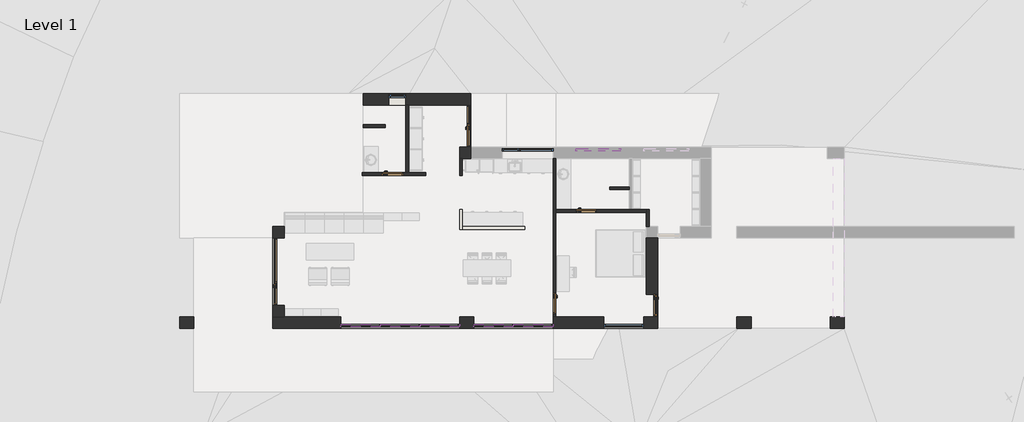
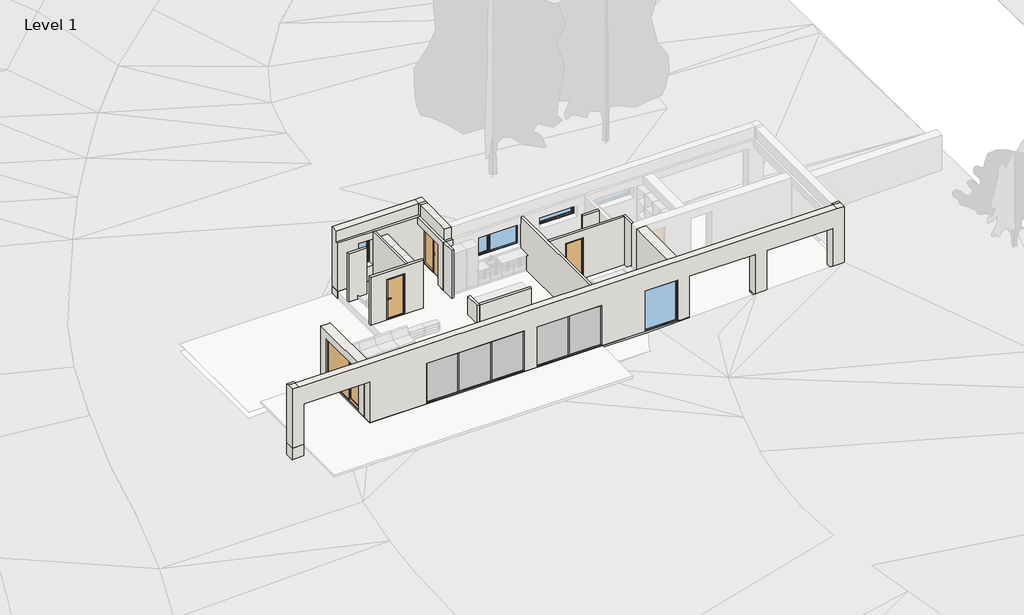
# One storey, part 1 of 3: 22 walls, 17 members, 6 doors, 5 plates, 4 windows.
"""IFC4 building model written with IfcOpenShell, lengths in millimetres."""

from ifc_helpers import new_model, si_unit, frame, origin, origin_with_axes, place, context, project, spatial, polyline, outline, extrude, faceted_brep, transform, mapped, element, save
from components import door_1800x2200_mm_7a9b0269, ext_door_window_assembly_glass_2880x2200_mm_8e24472b, ext_single_flush_out_glass_960x2200_mm_6190eac3, int_single_flush1_900x2200_mm_083ae047, rectangular_mullion_exterior_50x115mm_b31c03e9, rectangular_mullion_exterior_50x115mm_eaa21abb, rectangular_mullion_exterior_50x115mm_593a1a29, system_panel_exterior_glass_22mm_baca3ab9, system_panel_exterior_glass_22mm_266c4f93, fixed_1680x2200_mm_e3bfc0e5, single_light_top_hinged_1920x600_dd11e4f9, single_light_720x1400_mm_50d61ae6, window_assembly_individual_2160x1200_mm_ef5d95c3

model = new_model("IFC4")

# Units and contexts
model_context = context("Model", 3, world=origin())
ifc_project = project(units=[si_unit("LENGTHUNIT", "METRE", prefix="MILLI")], contexts=[model_context])

# Site, building, storey
site = spatial("IfcSite", under=ifc_project)
building = spatial("IfcBuilding", under=site)
storey = spatial("IfcBuildingStorey", under=building, Name="Level 1", Elevation=0.0)

# Doors
placement = place(None, origin())
door_1800x2200_mm_shape = door_1800x2200_mm_7a9b0269(model_context)
element("IfcDoor", 1, ObjectType="Ext. Door inw. Window Assembly : 1800x2200 mm", at=placement, inside=storey, context=model_context, shape_type="MappedRepresentation", body=[
    mapped(door_1800x2200_mm_shape, transform((12120.0, 8580.0, 0.0), x_axis=(0.0, -1.0, 0.0), y_axis=(1.0, 0.0, 0.0), z_axis=(0.0, 0.0, 1.0))),
])
ext_door_window_assembly_glass_2880x2200_mm_shape = ext_door_window_assembly_glass_2880x2200_mm_8e24472b(model_context)
element("IfcDoor", 2, ObjectType="Ext. Door Window Assembly - Glass : 2880x2200 mm", at=placement, inside=storey, context=model_context, shape_type="MappedRepresentation", body=[
    mapped(ext_door_window_assembly_glass_2880x2200_mm_shape, transform((4200.0, 2400.0, 0.0), x_axis=(0.0, -1.0, 0.0), y_axis=(1.0, 0.0, 0.0), z_axis=(0.0, 0.0, 1.0))),
])
ext_single_flush_out_glass_960x2200_mm_shape = ext_single_flush_out_glass_960x2200_mm_6190eac3(model_context)
element("IfcDoor", 3, ObjectType="Ext. Single-Flush out - Glass : 960x2200 mm", at=placement, inside=storey, context=model_context, shape_type="MappedRepresentation", body=[
    mapped(ext_single_flush_out_glass_960x2200_mm_shape, transform((20040.0, 960.0, 0.0), x_axis=(0.0, -1.0, 0.0), y_axis=(1.0, 0.0, 0.0), z_axis=(0.0, 0.0, 1.0))),
])
int_single_flush1_900x2200_mm_shape = int_single_flush1_900x2200_mm_083ae047(model_context)
element("IfcDoor", 4, ObjectType="Int. Single-Flush1 : 900x2200 mm", at=placement, inside=storey, context=model_context, shape_type="MappedRepresentation", body=[
    mapped(int_single_flush1_900x2200_mm_shape, transform((9030.0, 6540.0, 0.0), x_axis=(1.0, 0.0, 0.0), y_axis=(0.0, 1.0, 0.0), z_axis=(0.0, 0.0, 1.0))),
])
element("IfcDoor", 5, ObjectType="Int. Single-Flush1 : 900x2200 mm", at=placement, inside=storey, context=model_context, shape_type="MappedRepresentation", body=[
    mapped(int_single_flush1_900x2200_mm_shape, transform((17250.0, 4980.0, 0.0), x_axis=(1.0, 0.0, 0.0), y_axis=(0.0, 1.0, 0.0), z_axis=(0.0, 0.0, 1.0))),
])
element("IfcDoor", 6, ObjectType="Int. Single-Flush1 : 900x2200 mm", at=placement, inside=storey, context=model_context, shape_type="MappedRepresentation", body=[
    mapped(int_single_flush1_900x2200_mm_shape, transform((15900.0, 1050.0, 0.0), x_axis=(0.0, -1.0, 0.0), y_axis=(1.0, 0.0, 0.0), z_axis=(0.0, 0.0, 1.0))),
])

# Members
rectangular_mullion_exterior_50x115mm_shape = rectangular_mullion_exterior_50x115mm_b31c03e9(model_context)
element("IfcMember", 7, ObjectType="Rectangular Mullion : Exterior - 50x115mm", at=placement, inside=storey, context=model_context, shape_type="MappedRepresentation", body=[
    mapped(rectangular_mullion_exterior_50x115mm_shape, transform((6840.0, 50.0, 2200.0), x_axis=(0.0, 0.0, 1.0), y_axis=(0.0, 1.0, 0.0), z_axis=(-1.0, 0.0, 0.0))),
])
element("IfcMember", 8, ObjectType="Rectangular Mullion : Exterior - 50x115mm", at=placement, inside=storey, context=model_context, shape_type="MappedRepresentation", body=[
    mapped(rectangular_mullion_exterior_50x115mm_shape, transform((12480.0, 50.0, 2200.0), x_axis=(0.0, 0.0, 1.0), y_axis=(0.0, 1.0, 0.0), z_axis=(-1.0, 0.0, 0.0))),
])
element("IfcMember", 9, ObjectType="Rectangular Mullion : Exterior - 50x115mm", at=placement, inside=storey, context=model_context, shape_type="MappedRepresentation", body=[
    mapped(rectangular_mullion_exterior_50x115mm_shape, transform((11880.0, 50.0, 0.0), x_axis=(0.0, 0.0, -1.0), y_axis=(0.0, 1.0, 0.0), z_axis=(1.0, 0.0, 0.0))),
])
element("IfcMember", 10, ObjectType="Rectangular Mullion : Exterior - 50x115mm", at=placement, inside=storey, context=model_context, shape_type="MappedRepresentation", body=[
    mapped(rectangular_mullion_exterior_50x115mm_shape, transform((15840.0, 50.0, 0.0), x_axis=(0.0, 0.0, -1.0), y_axis=(0.0, 1.0, 0.0), z_axis=(1.0, 0.0, 0.0))),
])
rectangular_mullion_exterior_50x115mm_2_shape = rectangular_mullion_exterior_50x115mm_eaa21abb(model_context)
element("IfcMember", 11, ObjectType="Rectangular Mullion : Exterior - 50x115mm", at=placement, inside=storey, context=model_context, shape_type="MappedRepresentation", body=[
    mapped(rectangular_mullion_exterior_50x115mm_2_shape, transform((8520.0, 50.0, 50.0), x_axis=(-1.0, 0.0, 0.0), y_axis=(0.0, 1.0, 0.0), z_axis=(0.0, 0.0, -1.0))),
])
element("IfcMember", 12, ObjectType="Rectangular Mullion : Exterior - 50x115mm", at=placement, inside=storey, context=model_context, shape_type="MappedRepresentation", body=[
    mapped(rectangular_mullion_exterior_50x115mm_2_shape, transform((10200.0, 50.0, 50.0), x_axis=(-1.0, 0.0, 0.0), y_axis=(0.0, 1.0, 0.0), z_axis=(0.0, 0.0, -1.0))),
])
element("IfcMember", 13, ObjectType="Rectangular Mullion : Exterior - 50x115mm", at=placement, inside=storey, context=model_context, shape_type="MappedRepresentation", body=[
    mapped(rectangular_mullion_exterior_50x115mm_2_shape, transform((14160.0, 50.0, 50.0), x_axis=(-1.0, 0.0, 0.0), y_axis=(0.0, 1.0, 0.0), z_axis=(0.0, 0.0, -1.0))),
])
element("IfcMember", 14, ObjectType="Rectangular Mullion : Exterior - 50x115mm", at=placement, inside=storey, context=model_context, shape_type="MappedRepresentation", body=[
    mapped(rectangular_mullion_exterior_50x115mm_shape, transform((8520.0, 50.0, 0.0), x_axis=(0.0, 0.0, -1.0), y_axis=(0.0, 1.0, 0.0), z_axis=(1.0, 0.0, 0.0))),
])
element("IfcMember", 15, ObjectType="Rectangular Mullion : Exterior - 50x115mm", at=placement, inside=storey, context=model_context, shape_type="MappedRepresentation", body=[
    mapped(rectangular_mullion_exterior_50x115mm_shape, transform((14160.0, 50.0, 0.0), x_axis=(0.0, 0.0, -1.0), y_axis=(0.0, 1.0, 0.0), z_axis=(1.0, 0.0, 0.0))),
])
element("IfcMember", 16, ObjectType="Rectangular Mullion : Exterior - 50x115mm", at=placement, inside=storey, context=model_context, shape_type="MappedRepresentation", body=[
    mapped(rectangular_mullion_exterior_50x115mm_shape, transform((10200.0, 50.0, 0.0), x_axis=(0.0, 0.0, -1.0), y_axis=(0.0, 1.0, 0.0), z_axis=(1.0, 0.0, 0.0))),
])
element("IfcMember", 17, ObjectType="Rectangular Mullion : Exterior - 50x115mm", at=placement, inside=storey, context=model_context, shape_type="MappedRepresentation", body=[
    mapped(rectangular_mullion_exterior_50x115mm_shape, transform((8520.0, 50.0, 2200.0), x_axis=(0.0, 0.0, 1.0), y_axis=(0.0, 1.0, 0.0), z_axis=(-1.0, 0.0, 0.0))),
])
element("IfcMember", 18, ObjectType="Rectangular Mullion : Exterior - 50x115mm", at=placement, inside=storey, context=model_context, shape_type="MappedRepresentation", body=[
    mapped(rectangular_mullion_exterior_50x115mm_shape, transform((10200.0, 50.0, 2200.0), x_axis=(0.0, 0.0, 1.0), y_axis=(0.0, 1.0, 0.0), z_axis=(-1.0, 0.0, 0.0))),
])
element("IfcMember", 19, ObjectType="Rectangular Mullion : Exterior - 50x115mm", at=placement, inside=storey, context=model_context, shape_type="MappedRepresentation", body=[
    mapped(rectangular_mullion_exterior_50x115mm_shape, transform((14160.0, 50.0, 2200.0), x_axis=(0.0, 0.0, 1.0), y_axis=(0.0, 1.0, 0.0), z_axis=(-1.0, 0.0, 0.0))),
])
rectangular_mullion_exterior_50x115mm_3_shape = rectangular_mullion_exterior_50x115mm_593a1a29(model_context)
element("IfcMember", 20, ObjectType="Rectangular Mullion : Exterior - 50x115mm", at=placement, inside=storey, context=model_context, shape_type="MappedRepresentation", body=[
    mapped(rectangular_mullion_exterior_50x115mm_3_shape, transform((11880.0, 50.0, 2150.0), x_axis=(1.0, 0.0, 0.0), y_axis=(0.0, 1.0, 0.0), z_axis=(0.0, 0.0, 1.0))),
])
element("IfcMember", 21, ObjectType="Rectangular Mullion : Exterior - 50x115mm", at=placement, inside=storey, context=model_context, shape_type="MappedRepresentation", body=[
    mapped(rectangular_mullion_exterior_50x115mm_3_shape, transform((15840.0, 50.0, 2150.0), x_axis=(1.0, 0.0, 0.0), y_axis=(0.0, 1.0, 0.0), z_axis=(0.0, 0.0, 1.0))),
])
element("IfcMember", 22, ObjectType="Rectangular Mullion : Exterior - 50x115mm", at=placement, inside=storey, context=model_context, shape_type="MappedRepresentation", body=[
    mapped(rectangular_mullion_exterior_50x115mm_3_shape, transform((6840.0, 50.0, 50.0), x_axis=(-1.0, 0.0, 0.0), y_axis=(0.0, 1.0, 0.0), z_axis=(0.0, 0.0, -1.0))),
])
element("IfcMember", 23, ObjectType="Rectangular Mullion : Exterior - 50x115mm", at=placement, inside=storey, context=model_context, shape_type="MappedRepresentation", body=[
    mapped(rectangular_mullion_exterior_50x115mm_3_shape, transform((12480.0, 50.0, 50.0), x_axis=(-1.0, 0.0, 0.0), y_axis=(0.0, 1.0, 0.0), z_axis=(0.0, 0.0, -1.0))),
])

# Plates
system_panel_exterior_glass_22mm_shape = system_panel_exterior_glass_22mm_baca3ab9(model_context)
element("IfcPlate", 24, ObjectType="System Panel : Exterior - Glass 22mm", at=placement, inside=storey, context=model_context, shape_type="MappedRepresentation", body=[
    mapped(system_panel_exterior_glass_22mm_shape, transform((11027.5, 50.0, 50.0), x_axis=(-1.0, 0.0, 0.0), y_axis=(0.0, -1.0, 0.0), z_axis=(0.0, 0.0, 1.0))),
])
element("IfcPlate", 25, ObjectType="System Panel : Exterior - Glass 22mm", at=placement, inside=storey, context=model_context, shape_type="MappedRepresentation", body=[
    mapped(system_panel_exterior_glass_22mm_shape, transform((7692.5, 50.0, 50.0), x_axis=(-1.0, 0.0, 0.0), y_axis=(0.0, -1.0, 0.0), z_axis=(0.0, 0.0, 1.0))),
])
element("IfcPlate", 26, ObjectType="System Panel : Exterior - Glass 22mm", at=placement, inside=storey, context=model_context, shape_type="MappedRepresentation", body=[
    mapped(system_panel_exterior_glass_22mm_shape, transform((14987.5, 50.0, 50.0), x_axis=(-1.0, 0.0, 0.0), y_axis=(0.0, -1.0, 0.0), z_axis=(0.0, 0.0, 1.0))),
])
element("IfcPlate", 27, ObjectType="System Panel : Exterior - Glass 22mm", at=placement, inside=storey, context=model_context, shape_type="MappedRepresentation", body=[
    mapped(system_panel_exterior_glass_22mm_shape, transform((13332.5, 50.0, 50.0), x_axis=(-1.0, 0.0, 0.0), y_axis=(0.0, -1.0, 0.0), z_axis=(0.0, 0.0, 1.0))),
])
system_panel_exterior_glass_22mm_2_shape = system_panel_exterior_glass_22mm_266c4f93(model_context)
element("IfcPlate", 28, ObjectType="System Panel : Exterior - Glass 22mm", at=placement, inside=storey, context=model_context, shape_type="MappedRepresentation", body=[
    mapped(system_panel_exterior_glass_22mm_2_shape, transform((9360.0, 50.0, 50.0), x_axis=(-1.0, 0.0, 0.0), y_axis=(0.0, -1.0, 0.0), z_axis=(0.0, 0.0, 1.0))),
])

# Walls
element("IfcWall", 29, ObjectType="Generic - 120mm (Interior)", at=placement, inside=storey, context=model_context, shape_type="Brep", body=[
    faceted_brep([(9720.0, 6600.0, 0.0), (9720.0, 9480.0, 0.0), (9720.0, 9480.0, 2600.0), (9720.0, 6600.0, 2600.0), (9600.0, 6600.0, 0.0), (9600.0, 6600.0, 2600.0), (9600.0, 9480.0, 2600.0), (9600.0, 9480.0, 2200.0), (9600.0, 9480.0, 800.0), (9600.0, 9480.0, 0.0)], [[[0, 1, 2, 3]], [[4, 5, 6, 7, 8, 9]], [[1, 0, 4, 9]], [[0, 3, 5, 4]], [[2, 1, 9, 8, 7, 6]], [[3, 2, 6, 5]]]),
])
element("IfcWall", 30, ObjectType="Generic - 120mm (Interior)", at=placement, inside=storey, context=model_context, shape_type="Brep", body=[
    faceted_brep([(15960.0, 7200.0, 0.0), (15960.0, 7200.0, 2600.0), (15960.0, 5040.0, 2600.0), (15960.0, 4920.0, 2600.0), (15960.0, 480.0, 2600.0), (15960.0, 480.0, 0.0), (15960.0, 600.0, 0.0), (15960.0, 600.0, 2200.0), (15960.0, 1500.0, 2200.0), (15960.0, 1500.0, 0.0), (15960.0, 4920.0, 0.0), (15960.0, 5040.0, 0.0), (15840.0, 7200.0, 2600.0), (15840.0, 7200.0, 2200.0), (15840.0, 7200.0, 1000.0), (15840.0, 7200.0, 0.0), (15840.0, 1500.0, 0.0), (15840.0, 1500.0, 2200.0), (15840.0, 600.0, 2200.0), (15840.0, 600.0, 0.0), (15840.0, 480.0, 0.0), (15840.0, 480.0, 2200.0), (15840.0, 480.0, 2600.0)], [[[0, 1, 2, 3, 4, 5, 6, 7, 8, 9, 10, 11]], [[12, 13, 14, 15, 16, 17, 18, 19, 20, 21, 22]], [[5, 20, 19, 6]], [[15, 0, 11, 10, 9, 16]], [[1, 0, 15, 14, 13, 12]], [[5, 4, 22, 21, 20]], [[18, 7, 6, 19]], [[7, 18, 17, 8]], [[8, 17, 16, 9]], [[4, 3, 2, 1, 12, 22]]]),
])
element("IfcWall", 31, ObjectType="Generic - 120mm (Interior)", at=placement, inside=storey, context=model_context, shape_type="Brep", body=[
    faceted_brep([(19920.0, 4320.0, 0.0), (19920.0, 5040.0, 0.0), (19920.0, 5040.0, 2600.0), (19920.0, 4320.0, 2600.0), (19800.0, 4320.0, 0.0), (19800.0, 4320.0, 2600.0), (19800.0, 4920.0, 2600.0), (19800.0, 5040.0, 2600.0), (19800.0, 5040.0, 0.0), (19800.0, 4920.0, 0.0)], [[[0, 1, 2, 3]], [[4, 5, 6, 7, 8, 9]], [[1, 0, 4, 9, 8]], [[2, 1, 8, 7]], [[0, 3, 5, 4]], [[3, 2, 7, 6, 5]]]),
])
element("IfcWall", 32, ObjectType="Generic - 120mm (Interior)", at=placement, inside=storey, context=model_context, shape_type="Brep", body=[
    faceted_brep([(19800.0, 5040.0, 2600.0), (19800.0, 5040.0, 0.0), (19200.0, 5040.0, 0.0), (19080.0, 5040.0, 0.0), (17700.0, 5040.0, 0.0), (17700.0, 5040.0, 2200.0), (16800.0, 5040.0, 2200.0), (16800.0, 5040.0, 0.0), (15960.0, 5040.0, 0.0), (15960.0, 5040.0, 2600.0), (19080.0, 5040.0, 2600.0), (19200.0, 5040.0, 2600.0), (19800.0, 4920.0, 0.0), (19800.0, 4920.0, 2600.0), (15960.0, 4920.0, 2600.0), (15960.0, 4920.0, 0.0), (16800.0, 4920.0, 0.0), (16800.0, 4920.0, 2200.0), (17700.0, 4920.0, 2200.0), (17700.0, 4920.0, 0.0)], [[[0, 1, 2, 3, 4, 5, 6, 7, 8, 9, 10, 11]], [[12, 13, 14, 15, 16, 17, 18, 19]], [[1, 12, 19, 4, 3, 2]], [[15, 8, 7, 16]], [[1, 0, 13, 12]], [[9, 8, 15, 14]], [[18, 5, 4, 19]], [[5, 18, 17, 6]], [[6, 17, 16, 7]], [[0, 11, 10, 9, 14, 13]]]),
])
element("IfcWall", 33, ObjectType="Generic - 120mm (Interior)", at=placement, inside=storey, context=model_context, shape_type="SweptSolid", body=[
    extrude(outline(polyline([(18240.0, 6000.0), (19080.0, 6000.0), (19080.0, 5880.0), (18240.0, 5880.0), (18240.0, 6000.0)])), origin_with_axes(), (0.0, 0.0, 1.0), 2600.0),
])
element("IfcWall", 34, ObjectType="Generic - 120mm (Interior)", at=placement, inside=storey, context=model_context, shape_type="SweptSolid", body=[
    extrude(outline(polyline([(8720.0, 8520.0), (7800.0, 8520.0), (7800.0, 8640.0), (8720.0, 8640.0), (8720.0, 8520.0)])), origin_with_axes(), (0.0, 0.0, 1.0), 2600.0),
])
element("IfcWall", 35, ObjectType="Generic - 120mm (Interior)", at=placement, inside=storey, context=model_context, shape_type="Brep", body=[
    faceted_brep([(11880.0, 5040.0, 0.0), (11880.0, 4200.0, 0.0), (11880.0, 4200.0, 1000.0), (11880.0, 5040.0, 1000.0), (12000.0, 5040.0, 0.0), (12000.0, 5040.0, 1000.0), (12000.0, 4320.0, 1000.0), (12000.0, 4200.0, 1000.0), (12000.0, 4200.0, 0.0), (12000.0, 4320.0, 0.0)], [[[0, 1, 2, 3]], [[4, 5, 6, 7, 8, 9]], [[1, 0, 4, 9, 8]], [[3, 2, 7, 6, 5]], [[0, 3, 5, 4]], [[2, 1, 8, 7]]]),
])
element("IfcWall", 36, ObjectType="Generic - 120mm (Interior)", at=placement, inside=storey, context=model_context, shape_type="SweptSolid", body=[
    extrude(outline(polyline([(14640.0, 4200.0), (12000.0, 4200.0), (12000.0, 4320.0), (14640.0, 4320.0), (14640.0, 4200.0)])), origin_with_axes(), (0.0, 0.0, 1.0), 1000.0),
])
element("IfcWall", 37, ObjectType="Generic - 120mm (Interior)", at=placement, inside=storey, context=model_context, shape_type="SweptSolid", body=[
    extrude(outline(polyline([(11880.0, 6480.0), (11880.0, 7200.0), (12000.0, 7200.0), (12000.0, 6480.0), (11880.0, 6480.0)])), origin_with_axes(), (0.0, 0.0, 1.0), 2600.0),
])
element("IfcWall", 38, ObjectType="Generic - 120mm (Interior)", at=placement, inside=storey, context=model_context, shape_type="Brep", body=[
    faceted_brep([(10440.0, 6480.0, 0.0), (10440.0, 6480.0, 2600.0), (7740.0, 6480.0, 2600.0), (7740.0, 6480.0, 0.0), (7800.0, 6480.0, 0.0), (8580.0, 6480.0, 0.0), (8580.0, 6480.0, 2200.0), (9480.0, 6480.0, 2200.0), (9480.0, 6480.0, 0.0), (10440.0, 6600.0, 2600.0), (10440.0, 6600.0, 0.0), (9720.0, 6600.0, 0.0), (9600.0, 6600.0, 0.0), (9480.0, 6600.0, 0.0), (9480.0, 6600.0, 2200.0), (8580.0, 6600.0, 2200.0), (8580.0, 6600.0, 0.0), (7800.0, 6600.0, 0.0), (7740.0, 6600.0, 0.0), (7740.0, 6600.0, 2600.0), (7800.0, 6600.0, 2600.0), (9600.0, 6600.0, 2600.0), (9720.0, 6600.0, 2600.0)], [[[0, 1, 2, 3, 4, 5, 6, 7, 8]], [[9, 10, 11, 12, 13, 14, 15, 16, 17, 18, 19, 20, 21, 22]], [[10, 0, 8, 13, 12, 11]], [[3, 18, 17, 16, 5, 4]], [[1, 0, 10, 9]], [[3, 2, 19, 18]], [[2, 1, 9, 22, 21, 20, 19]], [[7, 14, 13, 8]], [[14, 7, 6, 15]], [[15, 6, 5, 16]]]),
])
element("IfcWall", 39, ObjectType="Generic - 480mm (Exterior)", at=placement, inside=storey, context=model_context, shape_type="Brep", body=[
    faceted_brep([(11880.0, 7200.0, 0.0), (11880.0, 7200.0, 2600.0), (11880.0, 9480.0, 2600.0), (11880.0, 9480.0, 2200.0), (11880.0, 7680.0, 2200.0), (11880.0, 7680.0, 0.0), (12360.0, 7200.0, 2600.0), (12360.0, 7200.0, 0.0), (12360.0, 7680.0, 0.0), (12360.0, 7680.0, 2200.0), (12360.0, 9480.0, 2200.0), (12360.0, 9480.0, 3200.0), (12360.0, 7680.0, 3200.0), (12360.0, 7320.0, 3200.0), (12360.0, 7320.0, 2600.0), (12000.0, 9480.0, 3200.0), (12000.0, 9480.0, 2600.0), (12000.0, 7200.0, 2600.0), (12000.0, 7320.0, 2600.0), (12000.0, 7320.0, 3200.0)], [[[0, 1, 2, 3, 4, 5]], [[6, 7, 8, 9, 10, 11, 12, 13, 14]], [[7, 0, 5, 8]], [[15, 11, 10, 3, 2, 16]], [[4, 9, 8, 5]], [[9, 4, 3, 10]], [[1, 0, 7, 6, 17]], [[15, 16, 18, 19]], [[11, 15, 19, 13, 12]], [[13, 19, 18, 14]], [[16, 2, 1, 17, 6, 14, 18]]]),
])
element("IfcWall", 40, ObjectType="Generic - 480mm (Exterior)", at=placement, inside=storey, context=model_context, shape_type="Brep", body=[
    faceted_brep([(28200.0, 480.0, 0.0), (27600.0, 480.0, 0.0), (27600.0, 480.0, 2200.0), (24240.0, 480.0, 2200.0), (24240.0, 480.0, 0.0), (23640.0, 480.0, 0.0), (23640.0, 480.0, 2200.0), (20280.0, 480.0, 2200.0), (20280.0, 480.0, 0.0), (19680.0, 480.0, 0.0), (19680.0, 480.0, 2200.0), (18000.0, 480.0, 2200.0), (18000.0, 480.0, 0.0), (15960.0, 480.0, 0.0), (15840.0, 480.0, 0.0), (15840.0, 480.0, 2200.0), (12480.0, 480.0, 2200.0), (12480.0, 480.0, 0.0), (11880.0, 480.0, 0.0), (11880.0, 480.0, 2200.0), (6840.0, 480.0, 2200.0), (6840.0, 480.0, 0.0), (4440.0, 480.0, 0.0), (3960.0, 480.0, 0.0), (3960.0, 480.0, 2200.0), (600.0, 480.0, 2200.0), (600.0, 480.0, 0.0), (0.0, 480.0, 0.0), (0.0, 480.0, 2200.0), (0.0, 480.0, 3200.0), (360.0, 480.0, 3200.0), (360.0, 480.0, 2600.0), (480.0, 480.0, 2600.0), (3960.0, 480.0, 2600.0), (4440.0, 480.0, 2600.0), (15840.0, 480.0, 2600.0), (15960.0, 480.0, 2600.0), (19800.0, 480.0, 2600.0), (20280.0, 480.0, 2600.0), (27720.0, 480.0, 2600.0), (27840.0, 480.0, 2600.0), (27840.0, 480.0, 3200.0), (28200.0, 480.0, 3200.0), (28200.0, 480.0, 2200.0), (27600.0, 0.0, 0.0), (28200.0, 0.0, 0.0), (28200.0, 0.0, 3200.0), (27840.0, 0.0, 3200.0), (360.0, 0.0, 3200.0), (0.0, 0.0, 3200.0), (0.0, 0.0, 0.0), (600.0, 0.0, 0.0), (600.0, 0.0, 2200.0), (3960.0, 0.0, 2200.0), (3960.0, 0.0, 0.0), (6840.0, 0.0, 0.0), (6840.0, 0.0, 2200.0), (11880.0, 0.0, 2200.0), (11880.0, 0.0, 0.0), (12480.0, 0.0, 0.0), (12480.0, 0.0, 2200.0), (15840.0, 0.0, 2200.0), (15840.0, 0.0, 0.0), (18000.0, 0.0, 0.0), (18000.0, 0.0, 2200.0), (19680.0, 0.0, 2200.0), (19680.0, 0.0, 0.0), (20280.0, 0.0, 0.0), (20280.0, 0.0, 2200.0), (23640.0, 0.0, 2200.0), (23640.0, 0.0, 0.0), (24240.0, 0.0, 0.0), (24240.0, 0.0, 2200.0), (27600.0, 0.0, 2200.0), (28200.0, 360.0, 3200.0), (0.0, 360.0, 3200.0), (27840.0, 360.0, 2600.0), (27840.0, 360.0, 3200.0), (360.0, 360.0, 2600.0), (360.0, 360.0, 3200.0)], [[[0, 1, 2, 3, 4, 5, 6, 7, 8, 9, 10, 11, 12, 13, 14, 15, 16, 17, 18, 19, 20, 21, 22, 23, 24, 25, 26, 27, 28, 29, 30, 31, 32, 33, 34, 35, 36, 37, 38, 39, 40, 41, 42, 43]], [[44, 45, 46, 47, 48, 49, 50, 51, 52, 53, 54, 55, 56, 57, 58, 59, 60, 61, 62, 63, 64, 65, 66, 67, 68, 69, 70, 71, 72, 73]], [[65, 10, 9, 66]], [[10, 65, 64, 11]], [[11, 64, 63, 12]], [[57, 19, 18, 58]], [[19, 57, 56, 20]], [[20, 56, 55, 21]], [[61, 15, 14, 62]], [[15, 61, 60, 16]], [[16, 60, 59, 17]], [[1, 0, 45, 44]], [[2, 1, 44, 73]], [[3, 2, 73, 72]], [[4, 3, 72, 71]], [[5, 4, 71, 70]], [[6, 5, 70, 69]], [[7, 6, 69, 68]], [[9, 8, 67, 66]], [[12, 63, 62, 14, 13]], [[58, 18, 17, 59]], [[23, 22, 21, 55, 54]], [[25, 24, 53, 52]], [[26, 25, 52, 51]], [[27, 26, 51, 50]], [[24, 23, 54, 53]], [[8, 7, 68, 67]], [[0, 43, 42, 74, 46, 45]], [[29, 28, 27, 50, 49, 75]], [[41, 40, 76, 77]], [[77, 76, 78, 79]], [[42, 41, 77, 74]], [[47, 46, 74, 77]], [[29, 75, 79, 30]], [[30, 79, 78, 31]], [[77, 79, 48, 47]], [[75, 49, 48, 79]], [[76, 40, 39, 38, 37, 36, 35, 34, 33, 32, 31, 78]]]),
])
element("IfcWall", 41, ObjectType="Generic - 480mm (Exterior)", at=placement, inside=storey, context=model_context, shape_type="Brep", body=[
    faceted_brep([(4440.0, 4320.0, 0.0), (4440.0, 4320.0, 2600.0), (4440.0, 480.0, 2600.0), (4440.0, 480.0, 0.0), (4440.0, 960.0, 0.0), (4440.0, 960.0, 2200.0), (4440.0, 3840.0, 2200.0), (4440.0, 3840.0, 0.0), (3960.0, 4320.0, 2600.0), (3960.0, 4320.0, 0.0), (3960.0, 3840.0, 0.0), (3960.0, 3840.0, 2200.0), (3960.0, 960.0, 2200.0), (3960.0, 960.0, 0.0), (3960.0, 480.0, 0.0), (3960.0, 480.0, 2200.0), (3960.0, 480.0, 2600.0), (3960.0, 3840.0, 2600.0), (4320.0, 4320.0, 2600.0)], [[[0, 1, 2, 3, 4, 5, 6, 7]], [[8, 9, 10, 11, 12, 13, 14, 15, 16, 17]], [[9, 0, 7, 10]], [[3, 14, 13, 4]], [[1, 0, 9, 8, 18]], [[12, 5, 4, 13]], [[5, 12, 11, 6]], [[6, 11, 10, 7]], [[14, 3, 2, 16, 15]], [[16, 2, 1, 18, 8, 17]]]),
])
element("IfcWall", 42, ObjectType="Generic - 480mm (Exterior)", at=placement, inside=storey, context=model_context, shape_type="Brep", body=[
    faceted_brep([(19800.0, 3840.0, 2600.0), (19800.0, 3840.0, 0.0), (19800.0, 1440.0, 0.0), (19800.0, 1440.0, 2200.0), (19800.0, 480.0, 2200.0), (19800.0, 480.0, 2600.0), (20280.0, 3840.0, 0.0), (20280.0, 3840.0, 2200.0), (20280.0, 3840.0, 2600.0), (20280.0, 480.0, 2600.0), (20280.0, 480.0, 2200.0), (20280.0, 1440.0, 2200.0), (20280.0, 1440.0, 0.0)], [[[0, 1, 2, 3, 4, 5]], [[6, 7, 8, 9, 10, 11, 12]], [[1, 6, 12, 2]], [[1, 0, 8, 7, 6]], [[3, 11, 10, 4]], [[11, 3, 2, 12]], [[9, 5, 4, 10]], [[0, 5, 9, 8]]]),
])
element("IfcWall", 43, ObjectType="Generic - 480mm (Exterior)", at=placement, inside=storey, context=model_context, shape_type="Brep", body=[
    faceted_brep([(7800.0, 9480.0, 0.0), (9600.0, 9480.0, 0.0), (9720.0, 9480.0, 0.0), (12360.0, 9480.0, 0.0), (12360.0, 9480.0, 2200.0), (12360.0, 9480.0, 3200.0), (12000.0, 9480.0, 3200.0), (12000.0, 9480.0, 2600.0), (11880.0, 9480.0, 2600.0), (9720.0, 9480.0, 2600.0), (9600.0, 9480.0, 2600.0), (7800.0, 9480.0, 2600.0), (8880.0, 9480.0, 800.0), (8880.0, 9480.0, 2200.0), (9600.0, 9480.0, 2200.0), (9600.0, 9480.0, 800.0), (7800.0, 9960.0, 0.0), (7800.0, 9960.0, 3200.0), (12000.0, 9960.0, 3200.0), (12360.0, 9960.0, 3200.0), (12360.0, 9960.0, 0.0), (8880.0, 9960.0, 800.0), (9600.0, 9960.0, 800.0), (9600.0, 9960.0, 2200.0), (8880.0, 9960.0, 2200.0), (7800.0, 9600.0, 2600.0), (7800.0, 9600.0, 3200.0), (12360.0, 9600.0, 3200.0), (12000.0, 9600.0, 3200.0), (12000.0, 9600.0, 2600.0)], [[[0, 1, 2, 3, 4, 5, 6, 7, 8, 9, 10, 11], [12, 13, 14, 15]], [[16, 17, 18, 19, 20], [21, 22, 23, 24]], [[3, 2, 1, 0, 16, 20]], [[0, 11, 25, 26, 17, 16]], [[5, 4, 3, 20, 19, 27]], [[28, 26, 25, 29]], [[6, 5, 27, 28]], [[6, 28, 29, 7]], [[18, 17, 26, 28]], [[27, 19, 18, 28]], [[11, 10, 9, 8, 7, 29, 25]], [[12, 15, 22, 21]], [[15, 14, 23, 22]], [[14, 13, 24, 23]], [[13, 12, 21, 24]]]),
])
element("IfcWall", 44, ObjectType="Generic - 480mm (Foundation)", at=placement, inside=storey, context=model_context, shape_type="Brep", body=[
    faceted_brep([(7800.0, 9480.0, 0.0), (7800.0, 9480.0, -600.0), (7800.0, 9480.0, -1300.0), (11880.0, 9480.0, -1300.0), (12360.0, 9480.0, -1300.0), (12360.0, 9480.0, 0.0), (11880.0, 9480.0, 0.0), (7800.0, 9960.0, -1300.0), (7800.0, 9960.0, -600.0), (7800.0, 9960.0, 0.0), (12360.0, 9960.0, 0.0), (12360.0, 9960.0, -1300.0)], [[[0, 1, 2, 3, 4, 5, 6]], [[7, 8, 9, 10, 11]], [[4, 3, 2, 7, 11]], [[0, 6, 5, 10, 9]], [[5, 4, 11, 10]], [[0, 9, 8, 7, 2, 1]]]),
])
element("IfcWall", 45, ObjectType="Generic - 480mm (Foundation)", at=placement, inside=storey, context=model_context, shape_type="Brep", body=[
    faceted_brep([(11880.0, 9480.0, -1300.0), (11880.0, 7200.0, -1300.0), (11880.0, 7200.0, -400.0), (11880.0, 7200.0, 0.0), (11880.0, 7680.0, 0.0), (11880.0, 7680.0, -400.0), (11880.0, 9480.0, -400.0), (12360.0, 7200.0, -1300.0), (12360.0, 7680.0, -1300.0), (12360.0, 9480.0, -1300.0), (12360.0, 9480.0, 0.0), (12360.0, 7680.0, 0.0), (12360.0, 7200.0, 0.0), (12360.0, 7200.0, -400.0), (12195.0, 9480.0, 0.0), (12195.0, 7680.0, 0.0), (12195.0, 9480.0, -400.0), (12195.0, 7680.0, -400.0)], [[[0, 1, 2, 3, 4, 5, 6]], [[7, 8, 9, 10, 11, 12, 13]], [[1, 0, 9, 8, 7]], [[12, 11, 10, 14, 15, 4, 3]], [[10, 9, 0, 6, 16, 14]], [[1, 7, 13, 12, 3, 2]], [[17, 16, 6, 5]], [[16, 17, 15, 14]], [[17, 5, 4, 15]]]),
])
element("IfcWall", 46, ObjectType="Generic - 480mm (Foundation)", at=placement, inside=storey, context=model_context, shape_type="Brep", body=[
    faceted_brep([(19800.0, 3840.0, -1300.0), (19800.0, 480.0, -1300.0), (19800.0, 0.0, -1300.0), (19800.0, 0.0, 0.0), (19800.0, 480.0, 0.0), (19800.0, 480.0, -400.0), (19800.0, 1440.0, -400.0), (19800.0, 1440.0, 0.0), (19800.0, 3840.0, 0.0), (19800.0, 3840.0, -400.0), (20280.0, 0.0, -1300.0), (20280.0, 3840.0, -1300.0), (20280.0, 3840.0, 0.0), (20280.0, 0.0, 0.0), (20115.0, 1440.0, 0.0), (20115.0, 480.0, 0.0), (20115.0, 1440.0, -400.0), (20115.0, 480.0, -400.0)], [[[0, 1, 2, 3, 4, 5, 6, 7, 8, 9]], [[10, 11, 12, 13]], [[2, 1, 0, 11, 10]], [[13, 12, 8, 7, 14, 15, 4, 3]], [[8, 12, 11, 0, 9]], [[3, 2, 10, 13]], [[16, 6, 5, 17]], [[6, 16, 14, 7]], [[16, 17, 15, 14]], [[15, 17, 5, 4]]]),
])
element("IfcWall", 47, ObjectType="Generic - 480mm (Foundation)", at=placement, inside=storey, context=model_context, shape_type="Brep", body=[
    faceted_brep([(19800.0, 480.0, -1300.0), (4440.0, 480.0, -1300.0), (3960.0, 480.0, -1300.0), (3960.0, 480.0, 0.0), (4440.0, 480.0, 0.0), (6840.0, 480.0, 0.0), (6840.0, 480.0, -400.0), (11880.0, 480.0, -400.0), (11880.0, 480.0, 0.0), (12480.0, 480.0, 0.0), (12480.0, 480.0, -400.0), (15840.0, 480.0, -400.0), (15840.0, 480.0, 0.0), (18000.0, 480.0, 0.0), (18000.0, 480.0, -400.0), (19680.0, 480.0, -400.0), (19680.0, 480.0, 0.0), (19800.0, 480.0, 0.0), (19800.0, 480.0, -400.0), (3960.0, 0.0, -1300.0), (19800.0, 0.0, -1300.0), (19800.0, 0.0, 0.0), (3960.0, 0.0, 0.0), (19680.0, 165.0, 0.0), (18000.0, 165.0, 0.0), (15840.0, 165.0, 0.0), (12480.0, 165.0, 0.0), (11880.0, 165.0, 0.0), (6840.0, 165.0, 0.0), (19680.0, 165.0, -400.0), (18000.0, 165.0, -400.0), (15840.0, 165.0, -400.0), (12480.0, 165.0, -400.0), (11880.0, 165.0, -400.0), (6840.0, 165.0, -400.0)], [[[0, 1, 2, 3, 4, 5, 6, 7, 8, 9, 10, 11, 12, 13, 14, 15, 16, 17, 18]], [[19, 20, 21, 22]], [[2, 1, 0, 20, 19]], [[22, 21, 17, 16, 23, 24, 13, 12, 25, 26, 9, 8, 27, 28, 5, 4, 3]], [[17, 21, 20, 0, 18]], [[3, 2, 19, 22]], [[29, 15, 14, 30]], [[31, 11, 10, 32]], [[33, 7, 6, 34]], [[15, 29, 23, 16]], [[29, 30, 24, 23]], [[30, 14, 13, 24]], [[11, 31, 25, 12]], [[31, 32, 26, 25]], [[32, 10, 9, 26]], [[7, 33, 27, 8]], [[33, 34, 28, 27]], [[34, 6, 5, 28]]]),
])
element("IfcWall", 48, ObjectType="Generic - 480mm (Foundation)", at=placement, inside=storey, context=model_context, shape_type="Brep", body=[
    faceted_brep([(4440.0, 480.0, -1300.0), (4440.0, 4320.0, -1300.0), (4440.0, 4320.0, -600.0), (4440.0, 3840.0, -600.0), (4440.0, 3840.0, -400.0), (4440.0, 960.0, -400.0), (4440.0, 960.0, 0.0), (4440.0, 480.0, 0.0), (4440.0, 480.0, -400.0), (3960.0, 4320.0, -1300.0), (3960.0, 480.0, -1300.0), (3960.0, 480.0, 0.0), (3960.0, 3840.0, 0.0), (3960.0, 3840.0, -600.0), (3960.0, 4320.0, -600.0), (4125.0, 960.0, 0.0), (4125.0, 3840.0, 0.0), (4125.0, 3840.0, -400.0), (4125.0, 960.0, -400.0)], [[[0, 1, 2, 3, 4, 5, 6, 7, 8]], [[9, 10, 11, 12, 13, 14]], [[1, 0, 10, 9]], [[12, 11, 7, 6, 15, 16]], [[7, 11, 10, 0, 8]], [[3, 2, 14, 13]], [[1, 9, 14, 2]], [[3, 13, 12, 16, 17, 4]], [[18, 5, 4, 17]], [[5, 18, 15, 6]], [[18, 17, 16, 15]]]),
])
element("IfcWall", 49, ObjectType="Generic - 480mm (Foundation)", at=placement, inside=storey, context=model_context, shape_type="SweptSolid", body=[
    extrude(outline(polyline([(0.0, 480.0), (600.0, 480.0), (600.0, 0.0), (0.0, 0.0), (0.0, 480.0)])), frame((0.0, 0.0, -1300.0), z_axis=(0.0, 0.0, 1.0), x_axis=(1.0, 0.0, 0.0)), (0.0, 0.0, 1.0), 1300.0),
])
element("IfcWall", 50, ObjectType="Generic - 480mm (Foundation)", at=placement, inside=storey, context=model_context, shape_type="SweptSolid", body=[
    extrude(outline(polyline([(23640.0, 480.0), (24240.0, 480.0), (24240.0, 0.0), (23640.0, 0.0), (23640.0, 480.0)])), frame((0.0, 0.0, -1300.0), z_axis=(0.0, 0.0, 1.0), x_axis=(1.0, 0.0, 0.0)), (0.0, 0.0, 1.0), 1100.0),
    extrude(outline(polyline([(23640.0, 480.0), (24240.0, 480.0), (24240.0, 0.0), (23640.0, 0.0), (23640.0, 480.0)])), frame((0.0, 0.0, -100.0), z_axis=(0.0, 0.0, 1.0), x_axis=(1.0, 0.0, 0.0)), (0.0, 0.0, 1.0), 100.0),
])

# Windows
fixed_1680x2200_mm_shape = fixed_1680x2200_mm_e3bfc0e5(model_context)
element("IfcWindow", 51, ObjectType="Fixed : 1680x2200 mm", at=placement, inside=storey, context=model_context, shape_type="MappedRepresentation", body=[
    mapped(fixed_1680x2200_mm_shape, transform((18840.0, 240.0, -800.0), x_axis=(-1.0, 0.0, 0.0), y_axis=(0.0, -1.0, 0.0), z_axis=(0.0, 0.0, 1.0))),
])
single_light_top_hinged_1920x600_shape = single_light_top_hinged_1920x600_dd11e4f9(model_context)
element("IfcWindow", 52, ObjectType="Single-Light (Top Hinged) : 1920x600", at=placement, inside=storey, context=model_context, shape_type="MappedRepresentation", body=[
    mapped(single_light_top_hinged_1920x600_shape, transform((17760.0, 7440.0, 800.0), x_axis=(1.0, 0.0, 0.0), y_axis=(0.0, 1.0, 0.0), z_axis=(0.0, 0.0, 1.0))),
])
single_light_720x1400_mm_shape = single_light_720x1400_mm_50d61ae6(model_context)
element("IfcWindow", 53, ObjectType="Single-Light : 720x1400 mm", at=placement, inside=storey, context=model_context, shape_type="MappedRepresentation", body=[
    mapped(single_light_720x1400_mm_shape, transform((9240.0, 9720.0, 0.0), x_axis=(1.0, 0.0, 0.0), y_axis=(0.0, 1.0, 0.0), z_axis=(0.0, 0.0, 1.0))),
])
window_assembly_individual_2160x1200_mm_shape = window_assembly_individual_2160x1200_mm_ef5d95c3(model_context)
element("IfcWindow", 54, ObjectType="Window Assembly Individual : 2160x1200 mm", at=placement, inside=storey, context=model_context, shape_type="MappedRepresentation", body=[
    mapped(window_assembly_individual_2160x1200_mm_shape, transform((14760.0, 7440.0, 200.0), x_axis=(-1.0, 0.0, 0.0), y_axis=(0.0, -1.0, 0.0), z_axis=(0.0, 0.0, 1.0))),
])

save(model, "model.ifc")
